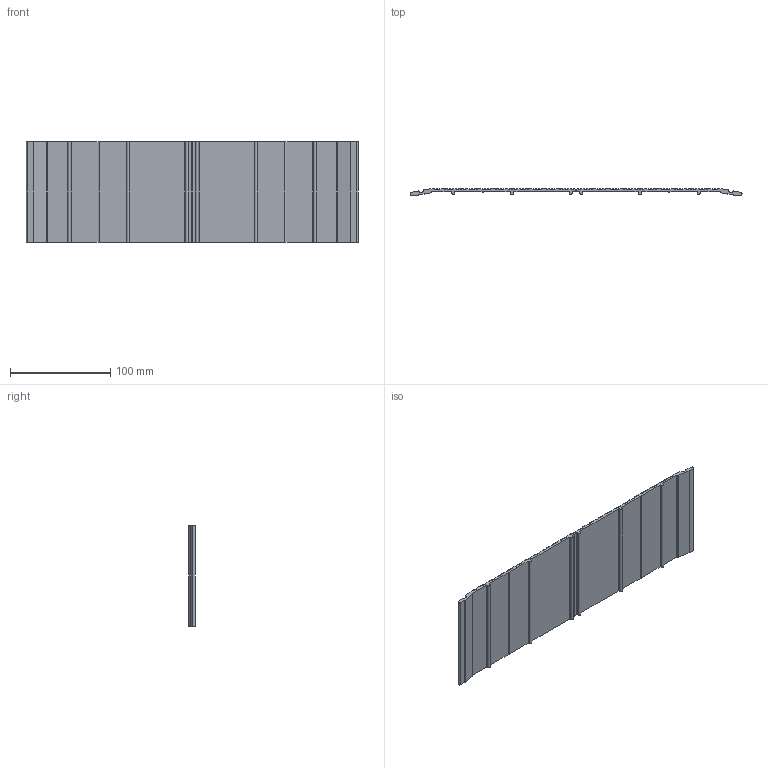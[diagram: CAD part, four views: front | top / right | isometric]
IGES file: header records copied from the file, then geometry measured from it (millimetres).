
Global section: file name: No Iges File Name specified; native system: Autodesk Inventor 2012; preprocessor: AutoDesk Inventor Iges Exporter R2012; author: anna.b; date: 20130731.145807; units: millimetre
Bounding box: 330.53 x 6.35 x 100 mm (x, y, z)
Volume: 97589.5 mm3; surface area: 76599.6 mm2
Topology: 2 solids, 2 shells, 348 faces, 1032 edges, 688 vertices
Faces by surface type: cylinder 154, plane 106, revolution 88
